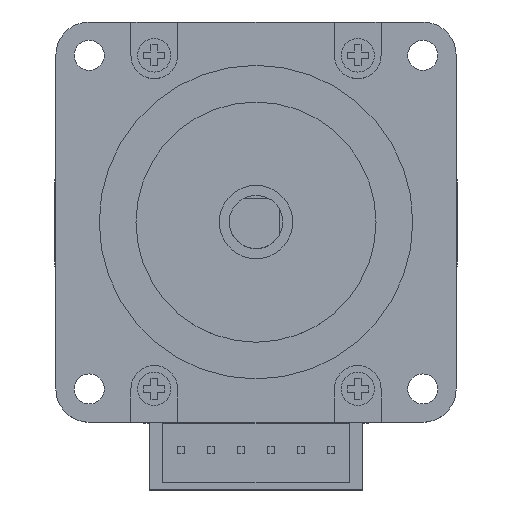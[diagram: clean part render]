
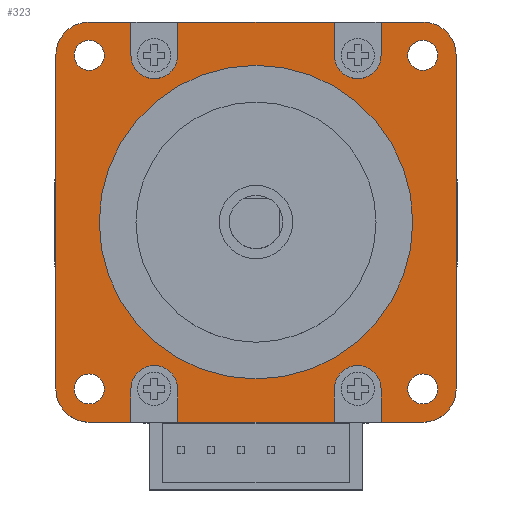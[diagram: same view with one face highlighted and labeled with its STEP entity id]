
A CAD part, top view. The second image highlights one B-rep face of the part: STEP entity #323.
In plain terms, the highlighted planar face has unit normal (0, 0, 1).
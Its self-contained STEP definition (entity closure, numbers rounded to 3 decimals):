
#227=FACE_BOUND('',#1151,.T.);
#228=FACE_BOUND('',#1152,.T.);
#229=FACE_BOUND('',#1153,.T.);
#230=FACE_BOUND('',#1154,.T.);
#231=FACE_BOUND('',#1155,.T.);
#232=FACE_BOUND('',#1156,.T.);
#323=ADVANCED_FACE('',(#227,#228,#229,#230,#231,#232),#644,.T.);
#644=PLANE('',#6137);
#1151=EDGE_LOOP('',(#1984));
#1152=EDGE_LOOP('',(#1985));
#1153=EDGE_LOOP('',(#1986));
#1154=EDGE_LOOP('',(#1987));
#1155=EDGE_LOOP('',(#1988));
#1156=EDGE_LOOP('',(#1989,#1990,#1991,#1992,#1993,#1994,#1995,#1996,#1997,
#1998,#1999,#2000,#2001,#2002,#2003,#2004,#2005,#2006,#2007,#2008,#2009,
#2010,#2011,#2012));
#1591=CIRCLE('',#6124,2.25);
#1592=CIRCLE('',#6125,2.25);
#1593=CIRCLE('',#6126,23.5);
#1594=CIRCLE('',#6127,2.25);
#1595=CIRCLE('',#6128,2.25);
#1596=CIRCLE('',#6129,3.5);
#1597=CIRCLE('',#6130,5.);
#1598=CIRCLE('',#6131,5.);
#1599=CIRCLE('',#6132,3.5);
#1600=CIRCLE('',#6133,3.5);
#1601=CIRCLE('',#6134,5.);
#1602=CIRCLE('',#6135,5.);
#1603=CIRCLE('',#6136,3.5);
#1984=ORIENTED_EDGE('',*,*,#4219,.T.);
#1985=ORIENTED_EDGE('',*,*,#4220,.F.);
#1986=ORIENTED_EDGE('',*,*,#4221,.T.);
#1987=ORIENTED_EDGE('',*,*,#4222,.F.);
#1988=ORIENTED_EDGE('',*,*,#4223,.F.);
#1989=ORIENTED_EDGE('',*,*,#4224,.T.);
#1990=ORIENTED_EDGE('',*,*,#4225,.T.);
#1991=ORIENTED_EDGE('',*,*,#4226,.T.);
#1992=ORIENTED_EDGE('',*,*,#4227,.T.);
#1993=ORIENTED_EDGE('',*,*,#4228,.T.);
#1994=ORIENTED_EDGE('',*,*,#4229,.T.);
#1995=ORIENTED_EDGE('',*,*,#4230,.T.);
#1996=ORIENTED_EDGE('',*,*,#4231,.T.);
#1997=ORIENTED_EDGE('',*,*,#4232,.T.);
#1998=ORIENTED_EDGE('',*,*,#4233,.F.);
#1999=ORIENTED_EDGE('',*,*,#4234,.F.);
#2000=ORIENTED_EDGE('',*,*,#4235,.F.);
#2001=ORIENTED_EDGE('',*,*,#4236,.T.);
#2002=ORIENTED_EDGE('',*,*,#4237,.T.);
#2003=ORIENTED_EDGE('',*,*,#4238,.T.);
#2004=ORIENTED_EDGE('',*,*,#4239,.T.);
#2005=ORIENTED_EDGE('',*,*,#4240,.T.);
#2006=ORIENTED_EDGE('',*,*,#4241,.T.);
#2007=ORIENTED_EDGE('',*,*,#4242,.T.);
#2008=ORIENTED_EDGE('',*,*,#4243,.T.);
#2009=ORIENTED_EDGE('',*,*,#4244,.T.);
#2010=ORIENTED_EDGE('',*,*,#4245,.T.);
#2011=ORIENTED_EDGE('',*,*,#4246,.T.);
#2012=ORIENTED_EDGE('',*,*,#4247,.T.);
#3650=VERTEX_POINT('',#8800);
#3651=VERTEX_POINT('',#8802);
#3652=VERTEX_POINT('',#8804);
#3653=VERTEX_POINT('',#8806);
#3654=VERTEX_POINT('',#8808);
#3655=VERTEX_POINT('',#8810);
#3656=VERTEX_POINT('',#8811);
#3657=VERTEX_POINT('',#8813);
#3658=VERTEX_POINT('',#8815);
#3659=VERTEX_POINT('',#8817);
#3660=VERTEX_POINT('',#8819);
#3661=VERTEX_POINT('',#8821);
#3662=VERTEX_POINT('',#8823);
#3663=VERTEX_POINT('',#8825);
#3664=VERTEX_POINT('',#8827);
#3665=VERTEX_POINT('',#8829);
#3666=VERTEX_POINT('',#8831);
#3667=VERTEX_POINT('',#8833);
#3668=VERTEX_POINT('',#8835);
#3669=VERTEX_POINT('',#8837);
#3670=VERTEX_POINT('',#8839);
#3671=VERTEX_POINT('',#8841);
#3672=VERTEX_POINT('',#8843);
#3673=VERTEX_POINT('',#8845);
#3674=VERTEX_POINT('',#8847);
#3675=VERTEX_POINT('',#8849);
#3676=VERTEX_POINT('',#8851);
#3677=VERTEX_POINT('',#8853);
#3678=VERTEX_POINT('',#8855);
#4219=EDGE_CURVE('',#3650,#3650,#1591,.T.);
#4220=EDGE_CURVE('',#3651,#3651,#1592,.T.);
#4221=EDGE_CURVE('',#3652,#3652,#1593,.T.);
#4222=EDGE_CURVE('',#3653,#3653,#1594,.T.);
#4223=EDGE_CURVE('',#3654,#3654,#1595,.T.);
#4224=EDGE_CURVE('',#3655,#3656,#4960,.T.);
#4225=EDGE_CURVE('',#3656,#3657,#4961,.T.);
#4226=EDGE_CURVE('',#3657,#3658,#1596,.T.);
#4227=EDGE_CURVE('',#3658,#3659,#4962,.T.);
#4228=EDGE_CURVE('',#3659,#3660,#4963,.T.);
#4229=EDGE_CURVE('',#3660,#3661,#1597,.T.);
#4230=EDGE_CURVE('',#3661,#3662,#4964,.T.);
#4231=EDGE_CURVE('',#3662,#3663,#1598,.T.);
#4232=EDGE_CURVE('',#3663,#3664,#4965,.T.);
#4233=EDGE_CURVE('',#3665,#3664,#4966,.T.);
#4234=EDGE_CURVE('',#3666,#3665,#1599,.T.);
#4235=EDGE_CURVE('',#3667,#3666,#4967,.T.);
#4236=EDGE_CURVE('',#3667,#3668,#4968,.T.);
#4237=EDGE_CURVE('',#3668,#3669,#4969,.T.);
#4238=EDGE_CURVE('',#3669,#3670,#1600,.T.);
#4239=EDGE_CURVE('',#3670,#3671,#4970,.T.);
#4240=EDGE_CURVE('',#3671,#3672,#4971,.T.);
#4241=EDGE_CURVE('',#3672,#3673,#1601,.T.);
#4242=EDGE_CURVE('',#3673,#3674,#4972,.T.);
#4243=EDGE_CURVE('',#3674,#3675,#1602,.T.);
#4244=EDGE_CURVE('',#3675,#3676,#4973,.T.);
#4245=EDGE_CURVE('',#3676,#3677,#4974,.T.);
#4246=EDGE_CURVE('',#3677,#3678,#1603,.T.);
#4247=EDGE_CURVE('',#3678,#3655,#4975,.T.);
#4960=LINE('',#8809,#5568);
#4961=LINE('',#8812,#5569);
#4962=LINE('',#8816,#5570);
#4963=LINE('',#8818,#5571);
#4964=LINE('',#8822,#5572);
#4965=LINE('',#8826,#5573);
#4966=LINE('',#8828,#5574);
#4967=LINE('',#8832,#5575);
#4968=LINE('',#8834,#5576);
#4969=LINE('',#8836,#5577);
#4970=LINE('',#8840,#5578);
#4971=LINE('',#8842,#5579);
#4972=LINE('',#8846,#5580);
#4973=LINE('',#8850,#5581);
#4974=LINE('',#8852,#5582);
#4975=LINE('',#8856,#5583);
#5568=VECTOR('',#6959,1.);
#5569=VECTOR('',#6960,1.);
#5570=VECTOR('',#6963,1.);
#5571=VECTOR('',#6964,1.);
#5572=VECTOR('',#6967,1.);
#5573=VECTOR('',#6970,1.);
#5574=VECTOR('',#6971,1.);
#5575=VECTOR('',#6974,1.);
#5576=VECTOR('',#6975,1.);
#5577=VECTOR('',#6976,1.);
#5578=VECTOR('',#6979,1.);
#5579=VECTOR('',#6980,1.);
#5580=VECTOR('',#6983,1.);
#5581=VECTOR('',#6986,1.);
#5582=VECTOR('',#6987,1.);
#5583=VECTOR('',#6990,1.);
#6124=AXIS2_PLACEMENT_3D('',#8799,#6949,#6950);
#6125=AXIS2_PLACEMENT_3D('',#8801,#6951,#6952);
#6126=AXIS2_PLACEMENT_3D('',#8803,#6953,#6954);
#6127=AXIS2_PLACEMENT_3D('',#8805,#6955,#6956);
#6128=AXIS2_PLACEMENT_3D('',#8807,#6957,#6958);
#6129=AXIS2_PLACEMENT_3D('',#8814,#6961,#6962);
#6130=AXIS2_PLACEMENT_3D('',#8820,#6965,#6966);
#6131=AXIS2_PLACEMENT_3D('',#8824,#6968,#6969);
#6132=AXIS2_PLACEMENT_3D('',#8830,#6972,#6973);
#6133=AXIS2_PLACEMENT_3D('',#8838,#6977,#6978);
#6134=AXIS2_PLACEMENT_3D('',#8844,#6981,#6982);
#6135=AXIS2_PLACEMENT_3D('',#8848,#6984,#6985);
#6136=AXIS2_PLACEMENT_3D('',#8854,#6988,#6989);
#6137=AXIS2_PLACEMENT_3D('',#8857,#6991,#6992);
#6949=DIRECTION('',(0.,0.,-1.));
#6950=DIRECTION('',(1.,0.,0.));
#6951=DIRECTION('',(0.,0.,1.));
#6952=DIRECTION('',(1.,0.,0.));
#6953=DIRECTION('',(0.,0.,-1.));
#6954=DIRECTION('',(1.,0.,0.));
#6955=DIRECTION('',(0.,0.,1.));
#6956=DIRECTION('',(1.,0.,0.));
#6957=DIRECTION('',(0.,0.,1.));
#6958=DIRECTION('',(1.,0.,0.));
#6959=DIRECTION('',(-1.,0.,0.));
#6960=DIRECTION('',(0.,-1.,0.));
#6961=DIRECTION('',(0.,0.,-1.));
#6962=DIRECTION('',(1.,0.,0.));
#6963=DIRECTION('',(0.,1.,0.));
#6964=DIRECTION('',(-1.,0.,0.));
#6965=DIRECTION('',(0.,0.,1.));
#6966=DIRECTION('',(1.,0.,0.));
#6967=DIRECTION('',(0.,-1.,0.));
#6968=DIRECTION('',(0.,0.,1.));
#6969=DIRECTION('',(1.,0.,0.));
#6970=DIRECTION('',(1.,0.,0.));
#6971=DIRECTION('',(0.,-1.,0.));
#6972=DIRECTION('',(0.,0.,1.));
#6973=DIRECTION('',(1.,0.,0.));
#6974=DIRECTION('',(0.,1.,0.));
#6975=DIRECTION('',(1.,0.,0.));
#6976=DIRECTION('',(0.,1.,0.));
#6977=DIRECTION('',(0.,0.,-1.));
#6978=DIRECTION('',(-1.,0.,0.));
#6979=DIRECTION('',(0.,-1.,0.));
#6980=DIRECTION('',(1.,0.,0.));
#6981=DIRECTION('',(0.,0.,1.));
#6982=DIRECTION('',(1.,0.,0.));
#6983=DIRECTION('',(0.,1.,0.));
#6984=DIRECTION('',(0.,0.,1.));
#6985=DIRECTION('',(1.,0.,0.));
#6986=DIRECTION('',(-1.,0.,0.));
#6987=DIRECTION('',(0.,-1.,0.));
#6988=DIRECTION('',(0.,0.,-1.));
#6989=DIRECTION('',(-1.,0.,0.));
#6990=DIRECTION('',(0.,1.,0.));
#6991=DIRECTION('',(0.,0.,1.));
#6992=DIRECTION('',(1.,0.,0.));
#8799=CARTESIAN_POINT('',(-25.,-25.,0.));
#8800=CARTESIAN_POINT('',(-22.75,-25.,0.));
#8801=CARTESIAN_POINT('',(25.,25.,0.));
#8802=CARTESIAN_POINT('',(27.25,25.,0.));
#8803=CARTESIAN_POINT('',(0.,0.,0.));
#8804=CARTESIAN_POINT('',(23.5,0.,0.));
#8805=CARTESIAN_POINT('',(-25.,25.,0.));
#8806=CARTESIAN_POINT('',(-22.75,25.,0.));
#8807=CARTESIAN_POINT('',(25.,-25.,0.));
#8808=CARTESIAN_POINT('',(27.25,-25.,0.));
#8809=CARTESIAN_POINT('',(30.,30.,0.));
#8810=CARTESIAN_POINT('',(11.75,30.,0.));
#8811=CARTESIAN_POINT('',(-11.75,30.,0.));
#8812=CARTESIAN_POINT('',(-11.75,30.,0.));
#8813=CARTESIAN_POINT('',(-11.75,25.,0.));
#8814=CARTESIAN_POINT('',(-15.25,25.,0.));
#8815=CARTESIAN_POINT('',(-18.75,25.,0.));
#8816=CARTESIAN_POINT('',(-18.75,25.,0.));
#8817=CARTESIAN_POINT('',(-18.75,30.,0.));
#8818=CARTESIAN_POINT('',(30.,30.,0.));
#8819=CARTESIAN_POINT('',(-25.,30.,0.));
#8820=CARTESIAN_POINT('',(-25.,25.,0.));
#8821=CARTESIAN_POINT('',(-30.,25.,0.));
#8822=CARTESIAN_POINT('',(-30.,30.,0.));
#8823=CARTESIAN_POINT('',(-30.,-25.,0.));
#8824=CARTESIAN_POINT('',(-25.,-25.,0.));
#8825=CARTESIAN_POINT('',(-25.,-30.,0.));
#8826=CARTESIAN_POINT('',(-30.,-30.,0.));
#8827=CARTESIAN_POINT('',(-18.75,-30.,0.));
#8828=CARTESIAN_POINT('',(-18.75,-25.,0.));
#8829=CARTESIAN_POINT('',(-18.75,-25.,0.));
#8830=CARTESIAN_POINT('',(-15.25,-25.,0.));
#8831=CARTESIAN_POINT('',(-11.75,-25.,0.));
#8832=CARTESIAN_POINT('',(-11.75,-30.,0.));
#8833=CARTESIAN_POINT('',(-11.75,-30.,0.));
#8834=CARTESIAN_POINT('',(-30.,-30.,0.));
#8835=CARTESIAN_POINT('',(11.75,-30.,0.));
#8836=CARTESIAN_POINT('',(11.75,-30.,0.));
#8837=CARTESIAN_POINT('',(11.75,-25.,0.));
#8838=CARTESIAN_POINT('',(15.25,-25.,0.));
#8839=CARTESIAN_POINT('',(18.75,-25.,0.));
#8840=CARTESIAN_POINT('',(18.75,-25.,0.));
#8841=CARTESIAN_POINT('',(18.75,-30.,0.));
#8842=CARTESIAN_POINT('',(-30.,-30.,0.));
#8843=CARTESIAN_POINT('',(25.,-30.,0.));
#8844=CARTESIAN_POINT('',(25.,-25.,0.));
#8845=CARTESIAN_POINT('',(30.,-25.,0.));
#8846=CARTESIAN_POINT('',(30.,-30.,0.));
#8847=CARTESIAN_POINT('',(30.,25.,0.));
#8848=CARTESIAN_POINT('',(25.,25.,0.));
#8849=CARTESIAN_POINT('',(25.,30.,0.));
#8850=CARTESIAN_POINT('',(30.,30.,0.));
#8851=CARTESIAN_POINT('',(18.75,30.,0.));
#8852=CARTESIAN_POINT('',(18.75,30.,0.));
#8853=CARTESIAN_POINT('',(18.75,25.,0.));
#8854=CARTESIAN_POINT('',(15.25,25.,0.));
#8855=CARTESIAN_POINT('',(11.75,25.,0.));
#8856=CARTESIAN_POINT('',(11.75,25.,0.));
#8857=CARTESIAN_POINT('',(30.,-30.,0.));
